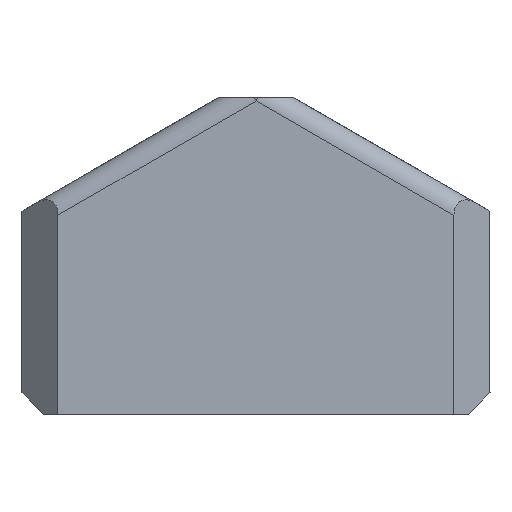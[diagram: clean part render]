
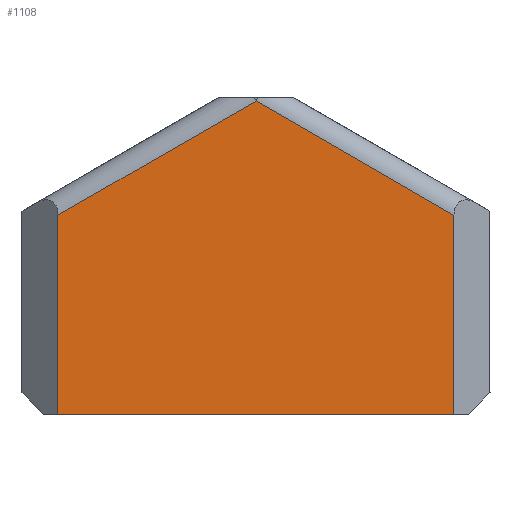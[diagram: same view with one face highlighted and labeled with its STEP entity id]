
A CAD part, front view. The second image highlights one B-rep face of the part: STEP entity #1108.
In plain terms, the highlighted planar face has unit normal (0, -1, 0).
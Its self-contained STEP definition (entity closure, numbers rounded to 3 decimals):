
#197 = PLANE ( 'NONE',  #3281 ) ;
#386 = VERTEX_POINT ( 'NONE', #1854 ) ;
#607 = CARTESIAN_POINT ( 'NONE',  ( -59.541, -139.933, 0. ) ) ;
#639 = VERTEX_POINT ( 'NONE', #3732 ) ;
#730 = VECTOR ( 'NONE', #4517, 1000. ) ;
#1108 = ADVANCED_FACE ( 'NONE', ( #1969 ), #197, .F. ) ;
#1248 = LINE ( 'NONE', #1982, #4681 ) ;
#1258 = LINE ( 'NONE', #5754, #2320 ) ;
#1386 = CARTESIAN_POINT ( 'NONE',  ( -59.541, -139.933, 13.829 ) ) ;
#1598 = LINE ( 'NONE', #5542, #3821 ) ;
#1755 = DIRECTION ( 'NONE',  ( 1., 0., 0. ) ) ;
#1854 = CARTESIAN_POINT ( 'NONE',  ( -87.041, -139.933, 43.536 ) ) ;
#1904 = CARTESIAN_POINT ( 'NONE',  ( -59.541, -139.933, 27.659 ) ) ;
#1969 = FACE_OUTER_BOUND ( 'NONE', #5438, .T. ) ;
#1982 = CARTESIAN_POINT ( 'NONE',  ( -98.269, -139.933, 37.054 ) ) ;
#2164 = ORIENTED_EDGE ( 'NONE', *, *, #2780, .T. ) ;
#2179 = VECTOR ( 'NONE', #1755, 1000. ) ;
#2320 = VECTOR ( 'NONE', #3994, 1000. ) ;
#2780 = EDGE_CURVE ( 'NONE', #2794, #639, #1258, .T. ) ;
#2794 = VERTEX_POINT ( 'NONE', #5777 ) ;
#2875 = ORIENTED_EDGE ( 'NONE', *, *, #2885, .F. ) ;
#2885 = EDGE_CURVE ( 'NONE', #386, #4900, #1598, .T. ) ;
#2886 = ORIENTED_EDGE ( 'NONE', *, *, #4872, .T. ) ;
#3210 = LINE ( 'NONE', #4889, #2179 ) ;
#3281 = AXIS2_PLACEMENT_3D ( 'NONE', #3377, #3341, #3295 ) ;
#3295 = DIRECTION ( 'NONE',  ( 1., 0., 0. ) ) ;
#3341 = DIRECTION ( 'NONE',  ( 0., 1., 0. ) ) ;
#3377 = CARTESIAN_POINT ( 'NONE',  ( -119.541, -139.933, 47. ) ) ;
#3545 = VERTEX_POINT ( 'NONE', #607 ) ;
#3732 = CARTESIAN_POINT ( 'NONE',  ( -114.541, -139.933, 0. ) ) ;
#3770 = DIRECTION ( 'NONE',  ( 0.866, 0., -0.5 ) ) ;
#3821 = VECTOR ( 'NONE', #3770, 1000. ) ;
#3994 = DIRECTION ( 'NONE',  ( 0., 0., -1. ) ) ;
#4177 = LINE ( 'NONE', #1386, #730 ) ;
#4517 = DIRECTION ( 'NONE',  ( 0., 0., 1. ) ) ;
#4681 = VECTOR ( 'NONE', #5109, 1000. ) ;
#4872 = EDGE_CURVE ( 'NONE', #3545, #4900, #4177, .T. ) ;
#4889 = CARTESIAN_POINT ( 'NONE',  ( -87.041, -139.933, 0. ) ) ;
#4900 = VERTEX_POINT ( 'NONE', #1904 ) ;
#4944 = ORIENTED_EDGE ( 'NONE', *, *, #5578, .T. ) ;
#5109 = DIRECTION ( 'NONE',  ( -0.866, 0., -0.5 ) ) ;
#5258 = EDGE_CURVE ( 'NONE', #639, #3545, #3210, .T. ) ;
#5362 = ORIENTED_EDGE ( 'NONE', *, *, #5258, .T. ) ;
#5438 = EDGE_LOOP ( 'NONE', ( #4944, #2164, #5362, #2886, #2875 ) ) ;
#5542 = CARTESIAN_POINT ( 'NONE',  ( -75.814, -139.933, 37.054 ) ) ;
#5578 = EDGE_CURVE ( 'NONE', #386, #2794, #1248, .T. ) ;
#5754 = CARTESIAN_POINT ( 'NONE',  ( -114.541, -139.933, 13.829 ) ) ;
#5777 = CARTESIAN_POINT ( 'NONE',  ( -114.541, -139.933, 27.659 ) ) ;
